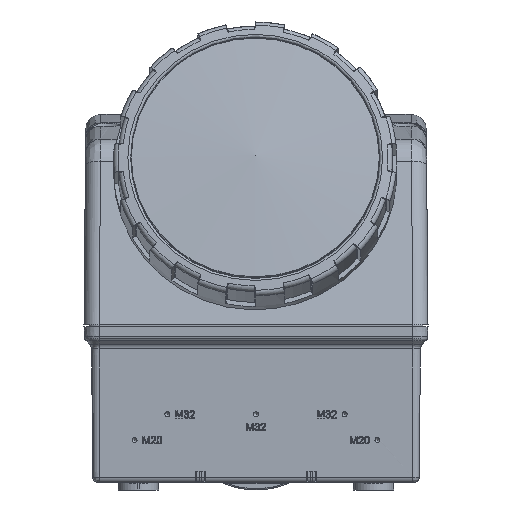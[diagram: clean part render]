
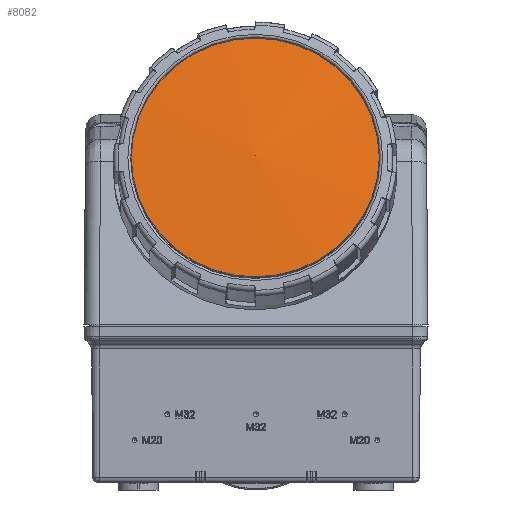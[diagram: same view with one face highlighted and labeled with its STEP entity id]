
A CAD part, front view. The second image highlights one B-rep face of the part: STEP entity #8082.
In plain terms, the highlighted spherical face has radius 458 mm.
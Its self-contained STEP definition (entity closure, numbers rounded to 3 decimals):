
#806=SPHERICAL_SURFACE('',#58907,458.);
#4954=CIRCLE('',#58890,49.05);
#8082=ADVANCED_FACE('',(#12294),#806,.T.);
#12294=FACE_OUTER_BOUND('',#15752,.T.);
#15752=EDGE_LOOP('',(#38195));
#38195=ORIENTED_EDGE('',*,*,#51752,.T.);
#44059=VERTEX_POINT('',#131431);
#51752=EDGE_CURVE('',#44059,#44059,#4954,.T.);
#58890=AXIS2_PLACEMENT_3D('',#131430,#71957,#71958);
#58907=AXIS2_PLACEMENT_3D('',#131916,#71993,#71994);
#71957=DIRECTION('',(0.,-0.966,0.259));
#71958=DIRECTION('',(0.,0.259,0.966));
#71993=DIRECTION('',(0.,-0.966,0.259));
#71994=DIRECTION('',(0.,0.259,0.966));
#131430=CARTESIAN_POINT('',(52.7,-35.332,282.157));
#131431=CARTESIAN_POINT('',(52.7,-22.637,329.536));
#131916=CARTESIAN_POINT('',(52.7,404.517,164.3));
